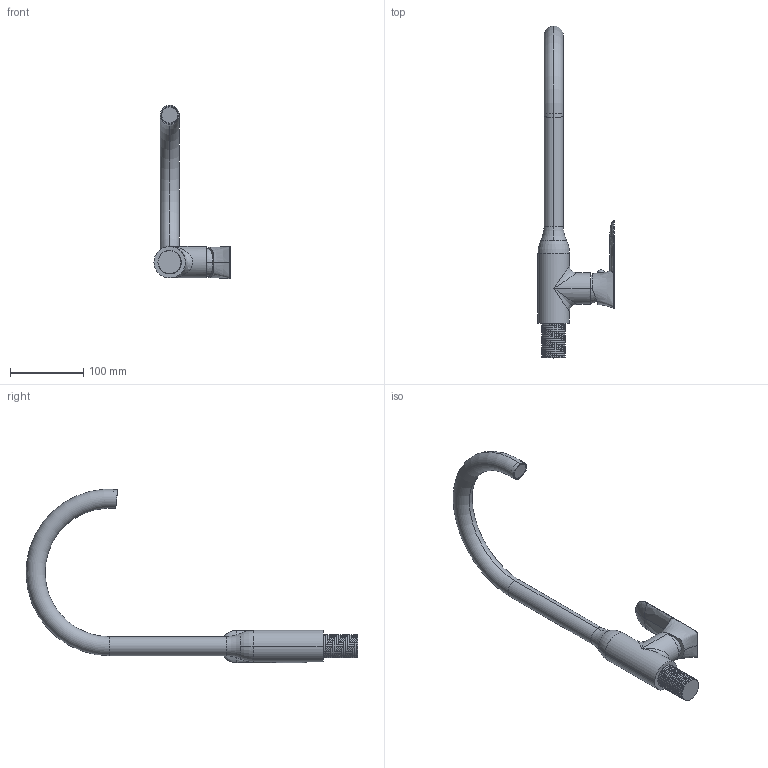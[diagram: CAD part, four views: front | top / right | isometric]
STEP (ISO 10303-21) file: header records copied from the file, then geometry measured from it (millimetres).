
FILE_DESCRIPTION (( 'STEP AP203' ), '1' );
FILE_NAME ('bt.pr8501.STEP', '2018-08-13T06:03:34', ( '' ), ( '' ), 'SwSTEP 2.0', 'SolidWorks 2018', '' );
FILE_SCHEMA (( 'CONFIG_CONTROL_DESIGN' ));
Length unit declared in the file: millimetre
Products named in the file (1): bt.pr8501
Bounding box: 103.92 x 453.15 x 236.67 mm (x, y, z)
Volume: 582356.2 mm3; surface area: 89220.3 mm2
Topology: 6 solids, 7 shells, 104 faces, 259 edges, 166 vertices
Faces by surface type: cylinder 51, bspline 20, plane 19, torus 12, cone 2
Entity records: 10880 total; most frequent: CARTESIAN_POINT 8715, ORIENTED_EDGE 510, DIRECTION 355, EDGE_CURVE 255, VERTEX_POINT 166, AXIS2_PLACEMENT_3D 149, EDGE_LOOP 107, FACE_OUTER_BOUND 104
